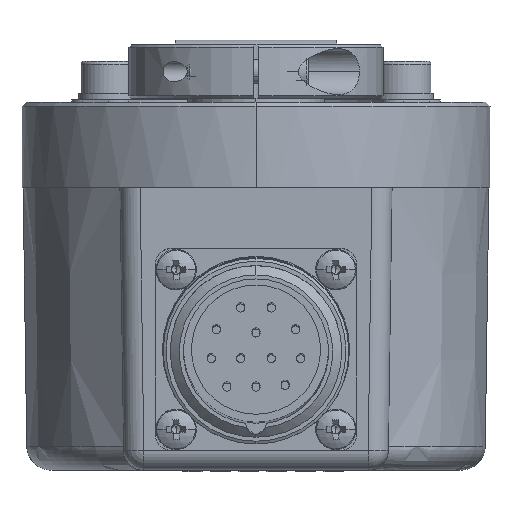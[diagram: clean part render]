
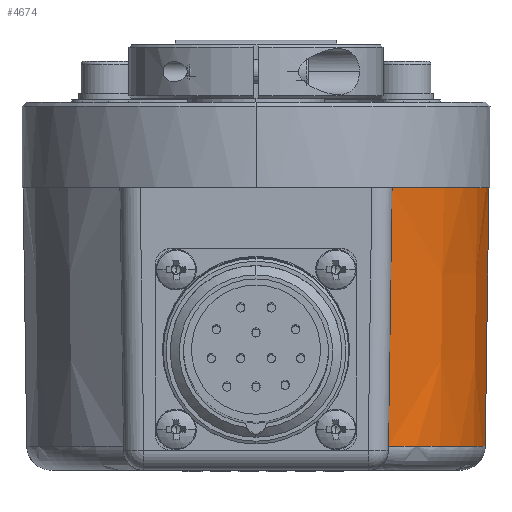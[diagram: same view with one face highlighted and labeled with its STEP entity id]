
A CAD part, front view. The second image highlights one B-rep face of the part: STEP entity #4674.
In plain terms, the highlighted conical face has half-angle 0.8 degrees and reference radius 29 mm.
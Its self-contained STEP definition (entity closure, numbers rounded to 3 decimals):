
#850 = DIRECTION ( 'NONE',  ( 0.014, 0., 1. ) ) ;
#1043 = EDGE_LOOP ( 'NONE', ( #14634, #4004, #19797, #6008 ) ) ;
#2693 = AXIS2_PLACEMENT_3D ( 'NONE', #14178, #23825, #6858 ) ;
#4004 = ORIENTED_EDGE ( 'NONE', *, *, #4802, .T. ) ;
#4467 = CARTESIAN_POINT ( 'NONE',  ( 29., 0., 45. ) ) ;
#4674 = ADVANCED_FACE ( 'NONE', ( #19420 ), #12423, .T. ) ;
#4802 = EDGE_CURVE ( 'NONE', #16232, #17345, #14304, .T. ) ;
#5629 = DIRECTION ( 'NONE',  ( 0., 0., 1. ) ) ;
#5963 = CARTESIAN_POINT ( 'NONE',  ( 16.86, -23.423, 35. ) ) ;
#6008 = ORIENTED_EDGE ( 'NONE', *, *, #13305, .T. ) ;
#6328 = CARTESIAN_POINT ( 'NONE',  ( 28.86, 0., 35. ) ) ;
#6858 = DIRECTION ( 'NONE',  ( 1., 0., 0. ) ) ;
#8122 = CARTESIAN_POINT ( 'NONE',  ( 0., 0., 45. ) ) ;
#8379 = CARTESIAN_POINT ( 'NONE',  ( 16.711, -23.347, 24.319 ) ) ;
#8775 = DIRECTION ( 'NONE',  ( -1., 0., 0. ) ) ;
#8911 = DIRECTION ( 'NONE',  ( 0., 0., 1. ) ) ;
#9789 = DIRECTION ( 'NONE',  ( -1., 0., 0. ) ) ;
#9974 = CARTESIAN_POINT ( 'NONE',  ( 28.413, 0., 2.958 ) ) ;
#10084 = B_SPLINE_CURVE_WITH_KNOTS ( 'NONE', 3,
 ( #12055, #8379, #23579, #19661 ),
 .UNSPECIFIED., .F., .F.,
 ( 4, 4 ),
 ( 0.01, 0.042 ),
 .UNSPECIFIED. ) ;
#10832 = VECTOR ( 'NONE', #850, 1000. ) ;
#11448 = CARTESIAN_POINT ( 'NONE',  ( 16.413, -23.193, 2.958 ) ) ;
#12055 = CARTESIAN_POINT ( 'NONE',  ( 16.86, -23.423, 35. ) ) ;
#12423 = CONICAL_SURFACE ( 'NONE', #16885, 29., 0.014 ) ;
#13305 = EDGE_CURVE ( 'NONE', #15801, #16917, #10084, .T. ) ;
#13616 = EDGE_CURVE ( 'NONE', #15801, #17345, #22584, .T. ) ;
#13653 = AXIS2_PLACEMENT_3D ( 'NONE', #16629, #8911, #8775 ) ;
#14178 = CARTESIAN_POINT ( 'NONE',  ( 0., 0., 2.958 ) ) ;
#14304 = LINE ( 'NONE', #4467, #10832 ) ;
#14634 = ORIENTED_EDGE ( 'NONE', *, *, #23871, .T. ) ;
#15801 = VERTEX_POINT ( 'NONE', #5963 ) ;
#16232 = VERTEX_POINT ( 'NONE', #9974 ) ;
#16629 = CARTESIAN_POINT ( 'NONE',  ( 0., 0., 35. ) ) ;
#16885 = AXIS2_PLACEMENT_3D ( 'NONE', #8122, #5629, #9789 ) ;
#16917 = VERTEX_POINT ( 'NONE', #11448 ) ;
#17345 = VERTEX_POINT ( 'NONE', #6328 ) ;
#19420 = FACE_OUTER_BOUND ( 'NONE', #1043, .T. ) ;
#19661 = CARTESIAN_POINT ( 'NONE',  ( 16.413, -23.193, 2.958 ) ) ;
#19797 = ORIENTED_EDGE ( 'NONE', *, *, #13616, .F. ) ;
#22584 = CIRCLE ( 'NONE', #13653, 28.86 ) ;
#23278 = CIRCLE ( 'NONE', #2693, 28.413 ) ;
#23579 = CARTESIAN_POINT ( 'NONE',  ( 16.562, -23.27, 13.639 ) ) ;
#23825 = DIRECTION ( 'NONE',  ( 0., 0., 1. ) ) ;
#23871 = EDGE_CURVE ( 'NONE', #16917, #16232, #23278, .T. ) ;
